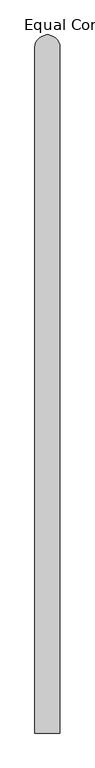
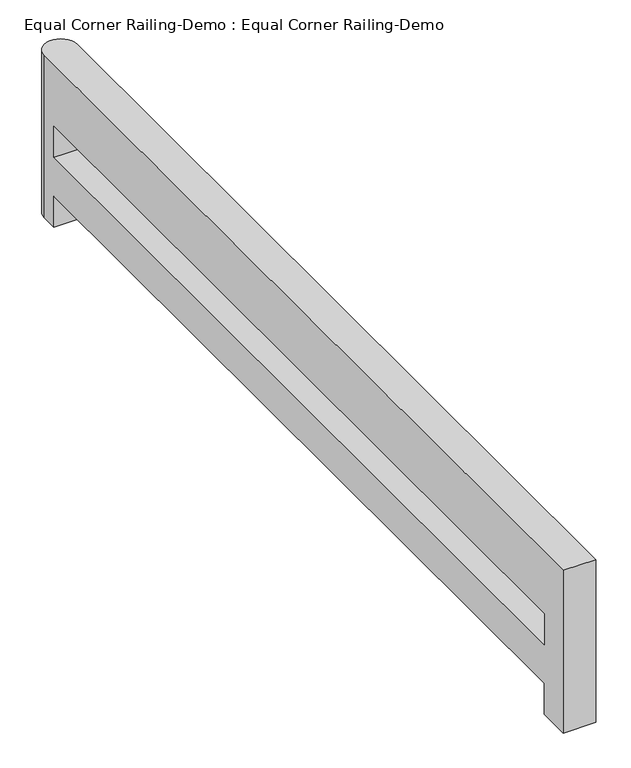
"""IFC4 building model written with IfcOpenShell, lengths in millimetres: railing geometry, Equal Corner Railing-Demo : Equal Corner Railing-Demo."""

import ifcopenshell
import ifcopenshell.guid

model = None  # the IFC model being written
_history = None  # IfcOwnerHistory: only IFC2X3 demands one
_inside = {}  # id of a spatial element -> (the spatial element, [elements in it])
_under = {}  # id of a project, library or spatial element -> (it, [spatial elements below it])
_declared = {}  # id of a project -> (the project, [libraries it declares])
_typed = {}  # id of a type object -> (the type object, [elements of that type])
_made_of = {}  # id of a material, layer set ... -> (it, [elements and type objects made of it])


def new_model(schema):
    """Start an empty IFC model of exactly this schema.

    Asked for "IFC4X3", IfcOpenShell would pick the latest addendum, in which some entities
    have other attributes; the version numbers below select the first issue.
    IFC2X3 requires an IfcOwnerHistory on every rooted entity: one is made here for all.
    """
    global model, _history
    if schema == "IFC4X3":
        model = ifcopenshell.file(schema_version=(4, 3, 0, 0))
    else:
        model = ifcopenshell.file(schema=schema)
    _inside.clear()
    _under.clear()
    _declared.clear()
    _typed.clear()
    _made_of.clear()
    _history = None
    if model.schema == "IFC2X3":
        org = make("IfcOrganization", Name="unknown")
        user = make(
            "IfcPersonAndOrganization",
            ThePerson=make("IfcPerson", FamilyName="unknown"),
            TheOrganization=org,
        )
        app = make(
            "IfcApplication",
            ApplicationDeveloper=org,
            Version="unknown",
            ApplicationFullName="unknown",
            ApplicationIdentifier="unknown",
        )
        _history = make(
            "IfcOwnerHistory",
            OwningUser=user,
            OwningApplication=app,
            ChangeAction="ADDED",
            CreationDate=0,
        )
    return model


def make(cls, **values):
    """One entity of the class cls with the attributes given. An attribute that is None is left unset."""
    return model.create_entity(
        cls, **{name: value for name, value in values.items() if value is not None}
    )


def rooted(cls, **values):
    """An entity with a GlobalId (a new one), such as an element, a storey or a relation."""
    return make(cls, GlobalId=ifcopenshell.guid.new(), OwnerHistory=_history, **values)


def si_unit(unit_type, name, prefix=None):
    """IfcSIUnit, for example si_unit("LENGTHUNIT", "METRE", prefix="MILLI")."""
    return make("IfcSIUnit", UnitType=unit_type, Prefix=prefix, Name=name)


def assignment(units):
    """IfcUnitAssignment: the units of a project."""
    return None if units is None else make("IfcUnitAssignment", Units=units)


def point(xyz):
    """IfcCartesianPoint."""
    return None if xyz is None else make("IfcCartesianPoint", Coordinates=xyz)


def direction(xyz):
    """IfcDirection."""
    return None if xyz is None else make("IfcDirection", DirectionRatios=xyz)


def frame(location, z_axis=None, x_axis=None):
    """IfcAxis2Placement3D, a coordinate frame: its origin and axes. An axis left out is left unset."""
    return make(
        "IfcAxis2Placement3D",
        Location=point(location),
        Axis=direction(z_axis),
        RefDirection=direction(x_axis),
    )


def origin():
    """The frame at (0, 0, 0) with its axes left unset."""
    return frame((0.0, 0.0, 0.0))


def place(relative_to, where):
    """IfcLocalPlacement: puts the frame where relative to a parent placement (None: the world)."""
    return make(
        "IfcLocalPlacement", PlacementRelTo=relative_to, RelativePlacement=where
    )


def context(
    kind, dimensions, precision=None, world=None, true_north=None, identifier=None
):
    """IfcGeometricRepresentationContext, for example the 3D "Model" context."""
    return make(
        "IfcGeometricRepresentationContext",
        ContextIdentifier=identifier,
        ContextType=kind,
        CoordinateSpaceDimension=dimensions,
        Precision=precision,
        WorldCoordinateSystem=world,
        TrueNorth=true_north,
    )


def project(units=None, contexts=None):
    """IfcProject with its units and contexts."""
    return rooted(
        "IfcProject",
        Name="project",
        RepresentationContexts=contexts,
        UnitsInContext=assignment(units),
    )


def spatial(cls, under=None, at=None, **own):
    """A site, building, storey or space (cls), placed at a placement, below another one or the project."""
    s = rooted(cls, ObjectPlacement=at, **own)
    if under is not None:
        _under.setdefault(under.id(), (under, []))[1].append(s)
    return s


def circle_curve(where, radius):
    """IfcCircle in the frame where."""
    return make("IfcCircle", Position=where, Radius=radius)


def shape(context_of_items, identifier, shape_type, items):
    """IfcShapeRepresentation: the items that make up one representation, for example the "Body"."""
    return make(
        "IfcShapeRepresentation",
        ContextOfItems=context_of_items,
        RepresentationIdentifier=identifier,
        RepresentationType=shape_type,
        Items=items,
    )


def source(mapping_origin, context_of_items, identifier, shape_type, items):
    """IfcRepresentationMap: a shape defined once, which mapped items show again and again."""
    return make(
        "IfcRepresentationMap",
        MappingOrigin=mapping_origin,
        MappedRepresentation=shape(context_of_items, identifier, shape_type, items),
    )


def transform(
    local_origin,
    x_axis=None,
    y_axis=None,
    z_axis=None,
    scale=None,
    scale2=None,
    scale3=None,
    uniform=True,
):
    """IfcCartesianTransformationOperator3D, or its non-uniform kind. x_axis, y_axis, z_axis: its Axis1, 2, 3."""
    if uniform:
        return make(
            "IfcCartesianTransformationOperator3D",
            Axis1=direction(x_axis),
            Axis2=direction(y_axis),
            LocalOrigin=point(local_origin),
            Scale=scale,
            Axis3=direction(z_axis),
        )
    return make(
        "IfcCartesianTransformationOperator3DnonUniform",
        Axis1=direction(x_axis),
        Axis2=direction(y_axis),
        LocalOrigin=point(local_origin),
        Scale=scale,
        Axis3=direction(z_axis),
        Scale2=scale2,
        Scale3=scale3,
    )


def mapped(mapping_source, mapping_target):
    """IfcMappedItem: shows the shape of a source again, moved by a transform."""
    return make(
        "IfcMappedItem", MappingSource=mapping_source, MappingTarget=mapping_target
    )


def made_of(thing, what):
    """Note that an element or type object is made of a material, layer set ...; save() writes the relation."""
    if what is not None:
        _made_of.setdefault(what.id(), (what, []))[1].append(thing)
    return thing


def element(
    cls,
    number,
    at=None,
    inside=None,
    cuts=None,
    type_object=None,
    material=None,
    context=None,
    identifier="Body",
    shape_type=None,
    held_by="IfcProductDefinitionShape",
    body=None,
    shapes=None,
    **own,
):
    """One element of the class cls, such as IfcWall. Its Tag is "e" and its number.

    at: its placement. inside: the storey or other place that contains it. cuts: it is an
    opening in that element (IfcRelVoidsElement). A single representation is given by context,
    identifier, shape_type and body (its items); several are given by shapes. held_by: the class
    of the entity that holds the representations. save() writes the other relations.
    """
    e = rooted(cls, Tag="e%d" % number, ObjectPlacement=at, **own)
    if body is not None:
        shapes = [shape(context, identifier, shape_type, body)]
    if shapes is not None:
        e.Representation = make(held_by, Representations=shapes)
    if inside is not None:
        _inside.setdefault(inside.id(), (inside, []))[1].append(e)
    if cuts is not None:
        rooted(
            "IfcRelVoidsElement", RelatingBuildingElement=cuts, RelatedOpeningElement=e
        )
    if type_object is not None:
        _typed.setdefault(type_object.id(), (type_object, []))[1].append(e)
    return made_of(e, material)


def aggregate(whole, parts):
    """IfcRelAggregates: a whole, such as a stair, and the parts it consists of."""
    return rooted("IfcRelAggregates", RelatingObject=whole, RelatedObjects=parts)


def save(model, path):
    """Write the relations noted so far, then the file.

    IfcRelAggregates (storeys below a building ...), IfcRelContainedInSpatialStructure (elements
    in a storey), IfcRelDefinesByType, IfcRelAssociatesMaterial and IfcRelDeclares: one each for
    every whole, place, type object, material and project.
    """
    for whole, parts in _under.values():
        aggregate(whole, parts)
    for where, things in _inside.values():
        rooted(
            "IfcRelContainedInSpatialStructure",
            RelatedElements=things,
            RelatingStructure=where,
        )
    for kind, things in _typed.values():
        rooted("IfcRelDefinesByType", RelatedObjects=things, RelatingType=kind)
    for what, things in _made_of.values():
        rooted("IfcRelAssociatesMaterial", RelatedObjects=things, RelatingMaterial=what)
    for by, libraries in _declared.values():
        rooted("IfcRelDeclares", RelatingContext=by, RelatedDefinitions=libraries)
    model.write(path)


def plane_surface(at):
    """IfcPlane: the flat surface through the origin of the frame at, square to its z axis."""
    return make("IfcPlane", Position=at)


def cylinder_surface(at, radius):
    """IfcCylindricalSurface: all points at the distance radius from the z axis of the frame at."""
    return make("IfcCylindricalSurface", Position=at, Radius=radius)


def advanced_brep(points, edges, surfaces, faces):
    """IfcAdvancedBrep: a solid bounded by faces that lie on surfaces and meet in shared edges.

    An edge is (start, end): straight between two places in points (the first is 0);
    or (start, end, curve); or (start, end, curve, False) where it runs against its curve.
    A face is (place in surfaces, loops), or (place, loops, False) where it looks against
    its surface's normal. A loop lists edges by number (the first is 1), with a minus sign
    where the edge is run from its end to its start. The first loop is the outer one.
    """
    corners = [point(p) for p in points]
    vertices = [make("IfcVertexPoint", VertexGeometry=c) for c in corners]
    made = []
    for start, end, *more in edges:
        made.append(
            make(
                "IfcEdgeCurve",
                EdgeStart=vertices[start],
                EdgeEnd=vertices[end],
                EdgeGeometry=more[0] if more else make("IfcPolyline", Points=[corners[start], corners[end]]),
                SameSense=more[1] if len(more) > 1 else True,
            )
        )
    hull = []
    for where, loops, *sense in faces:
        bounds = []
        for j, loop in enumerate(loops):
            ring = [make("IfcOrientedEdge", EdgeElement=made[abs(k) - 1], Orientation=k > 0) for k in loop]
            bounds.append(
                make(
                    "IfcFaceOuterBound" if j == 0 else "IfcFaceBound",
                    Bound=make("IfcEdgeLoop", EdgeList=ring),
                    Orientation=True,
                )
            )
        hull.append(make("IfcAdvancedFace", Bounds=bounds, FaceSurface=surfaces[where], SameSense=sense[0] if sense else True))
    return make("IfcAdvancedBrep", Outer=make("IfcClosedShell", CfsFaces=hull))


def equal_corner_railing_demo_equal_corner_railing_demo_e16467f9(model_context):
    return source(origin(), model_context, "Body", "AdvancedBrep", [
        advanced_brep(
        [(-101.6, 5473.7, 1066.8), (-101.6, -101.6, 1066.8), (101.6, -101.6, 1066.8), (101.6, 5473.7, 1066.8), (-101.6, 5473.7, 0.0), (101.6, 5473.7, 0.0), (101.6, 5372.1, 0.0), (-101.6, 5372.1, 0.0), (101.6, -101.6, 0.0), (-101.6, -101.6, 0.0), (-101.6, 101.6, 0.0), (101.6, 101.6, 0.0), (-101.6, 5372.1, 203.2), (-101.6, 101.6, 203.2), (-101.6, 5372.1, 660.4), (-101.6, 101.6, 660.4), (-101.6, 101.6, 457.2), (-101.6, 5372.1, 457.2), (101.6, 101.6, 203.2), (101.6, 5372.1, 203.2), (101.6, 101.6, 660.4), (101.6, 5372.1, 660.4), (101.6, 5372.1, 457.2), (101.6, 101.6, 457.2)],
        [
            (0, 1),
            (1, 2),
            (2, 3),
            (3, 0, circle_curve(frame((0.0, 5473.7, 1066.8), z_axis=(0.0, 0.0, 1.0), x_axis=(1.0, 0.0, 0.0)), 101.6)),
            (4, 5, circle_curve(frame((0.0, 5473.7, 0.0), z_axis=(0.0, 0.0, -1.0), x_axis=(1.0, 0.0, 0.0)), 101.6)),
            (5, 6),
            (6, 7),
            (7, 4),
            (8, 9),
            (9, 10),
            (10, 11),
            (11, 8),
            (0, 4),
            (7, 12),
            (12, 13),
            (13, 10),
            (9, 1),
            (14, 15),
            (15, 16),
            (16, 17),
            (17, 14),
            (8, 2),
            (11, 18),
            (18, 19),
            (19, 6),
            (5, 3),
            (20, 21),
            (21, 22),
            (22, 23),
            (23, 20),
            (18, 13),
            (12, 19),
            (20, 15),
            (14, 21),
            (23, 16),
            (22, 17),
        ],
        [
            plane_surface(frame((-101.6, 0.0, 1066.8), z_axis=(0.0, 0.0, 1.0), x_axis=(0.0, -1.0, 0.0))),
            plane_surface(frame((-101.6, 0.0, 0.0), z_axis=(0.0, 0.0, -1.0), x_axis=(0.0, 1.0, 0.0))),
            plane_surface(frame((-101.6, 5473.7, 1066.8), z_axis=(-1.0, 0.0, 0.0), x_axis=(0.0, 0.0, -1.0))),
            plane_surface(frame((-101.6, -101.6, 1066.8), z_axis=(0.0, -1.0, 0.0), x_axis=(0.0, 0.0, -1.0))),
            plane_surface(frame((101.6, -101.6, 1066.8), z_axis=(1.0, 0.0, 0.0), x_axis=(0.0, 0.0, -1.0))),
            cylinder_surface(frame((0.0, 5473.7, 0.0), z_axis=(0.0, 0.0, 1.0), x_axis=(1.0, 0.0, 0.0)), 101.6),
            plane_surface(frame((101.6, 5372.1, 203.2), z_axis=(0.0, 0.0, -1.0), x_axis=(-1.0, 0.0, 0.0))),
            plane_surface(frame((101.6, 101.6, 203.2), z_axis=(0.0, 1.0, 0.0), x_axis=(-1.0, 0.0, 0.0))),
            plane_surface(frame((101.6, 5372.1, 0.0), z_axis=(0.0, -1.0, 0.0), x_axis=(-1.0, 0.0, 0.0))),
            plane_surface(frame((101.6, 5372.1, 660.4), z_axis=(0.0, 0.0, -1.0), x_axis=(-1.0, 0.0, 0.0))),
            plane_surface(frame((101.6, 101.6, 660.4), z_axis=(0.0, 1.0, 0.0), x_axis=(-1.0, 0.0, 0.0))),
            plane_surface(frame((101.6, 101.6, 457.2), z_axis=(0.0, 0.0, 1.0), x_axis=(-1.0, 0.0, 0.0))),
            plane_surface(frame((101.6, 5372.1, 457.2), z_axis=(0.0, -1.0, 0.0), x_axis=(-1.0, 0.0, 0.0))),
        ],
        [
            (0, [[1, 2, 3, 4]]),
            (1, [[5, 6, 7, 8]]),
            (1, [[9, 10, 11, 12]]),
            (2, [[-1, 13, -8, 14, 15, 16, -10, 17], [18, 19, 20, 21]]),
            (3, [[-2, -17, -9, 22]]),
            (4, [[-3, -22, -12, 23, 24, 25, -6, 26], [27, 28, 29, 30]]),
            (5, [[-4, -26, -5, -13]]),
            (6, [[31, -15, 32, -24]]),
            (7, [[-31, -23, -11, -16]]),
            (8, [[-32, -14, -7, -25]]),
            (9, [[33, -18, 34, -27]]),
            (10, [[-33, -30, 35, -19]]),
            (11, [[-35, -29, 36, -20]]),
            (12, [[-34, -21, -36, -28]]),
        ],
    ),
    ])


if __name__ == "__main__":
    model = new_model("IFC4")
    model_context = context("Model", 3, world=origin())
    ifc_project = project(units=[si_unit("LENGTHUNIT", "METRE", prefix="MILLI")], contexts=[model_context])
    site = spatial("IfcSite", under=ifc_project)
    building = spatial("IfcBuilding", under=site)
    placement = place(None, origin())
    equal_corner_railing_demo_equal_corner_railing_demo_shape = equal_corner_railing_demo_equal_corner_railing_demo_e16467f9(model_context)
    element("IfcRailing", 1, ObjectType="Equal Corner Railing-Demo : Equal Corner Railing-Demo", at=placement, inside=building, context=model_context, shape_type="MappedRepresentation", body=[
        mapped(equal_corner_railing_demo_equal_corner_railing_demo_shape, transform((0.0, 0.0, 0.0), x_axis=(1.0, 0.0, 0.0), y_axis=(0.0, 1.0, 0.0), z_axis=(0.0, 0.0, 1.0))),
    ])
    save(model, "model.ifc")
